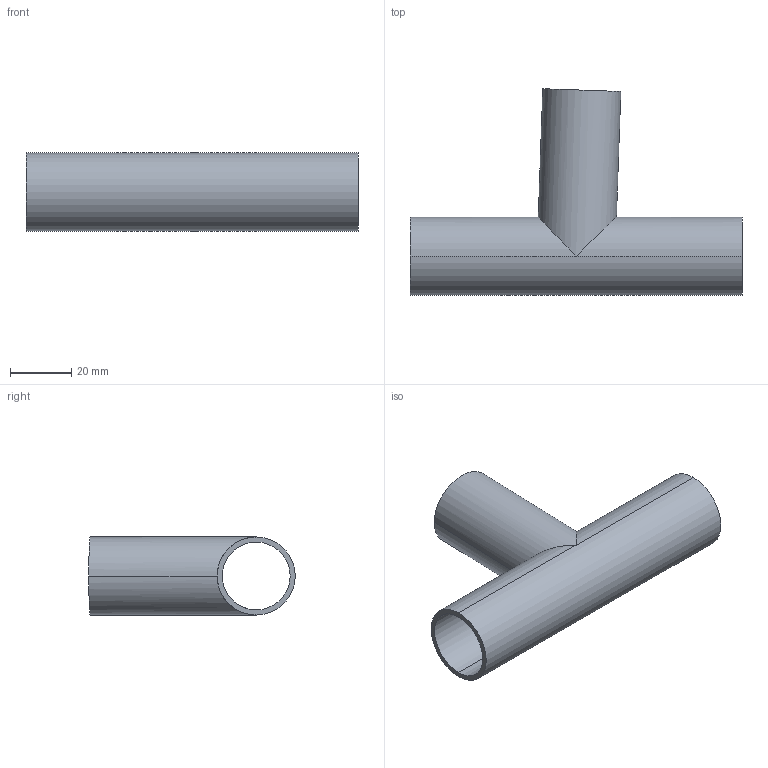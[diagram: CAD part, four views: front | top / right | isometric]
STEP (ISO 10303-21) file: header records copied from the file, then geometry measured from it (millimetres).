
FILE_DESCRIPTION (( 'STEP AP214' ), '1' );
FILE_NAME ('TE7WWW886L1.0-...STEP', '2016-05-23T04:55:11', ( 'eran' ), ( '' ), 'SwSTEP 2.0', 'SolidWorks 2016', '' );
FILE_SCHEMA (( 'AUTOMOTIVE_DESIGN' ));
Length unit declared in the file: millimetre
Products named in the file (1): TE7WWW886L1.0-..
Bounding box: 108 x 67.14 x 25.4 mm (x, y, z)
Volume: 18082.9 mm3; surface area: 22694.2 mm2
Topology: 2 solids, 2 shells, 15 faces, 36 edges, 24 vertices
Faces by surface type: cylinder 12, plane 3
Entity records: 697 total; most frequent: CARTESIAN_POINT 308, ORIENTED_EDGE 72, DIRECTION 68, EDGE_CURVE 36, AXIS2_PLACEMENT_3D 28, VERTEX_POINT 24, EDGE_LOOP 20, ADVANCED_FACE 15
